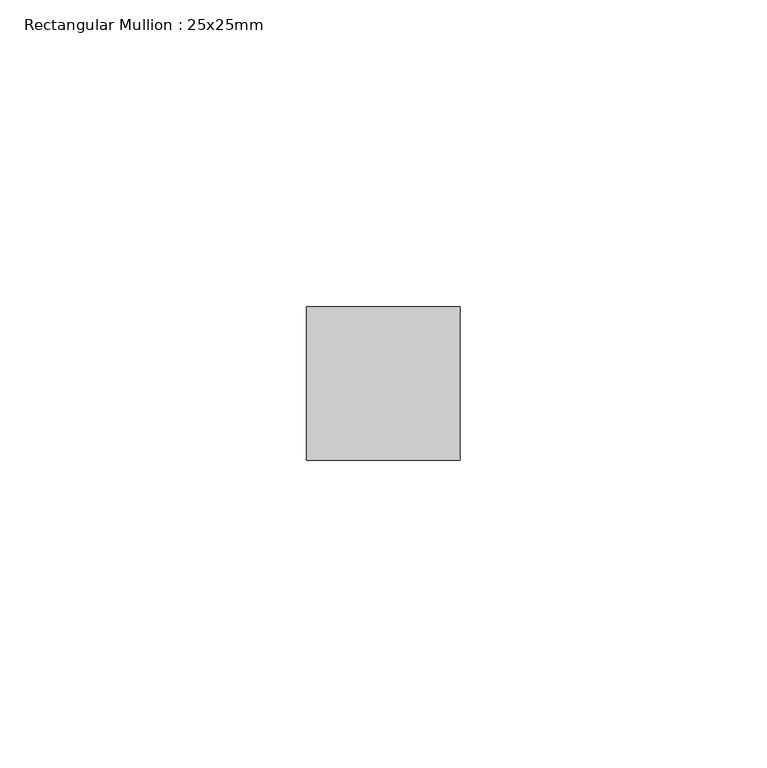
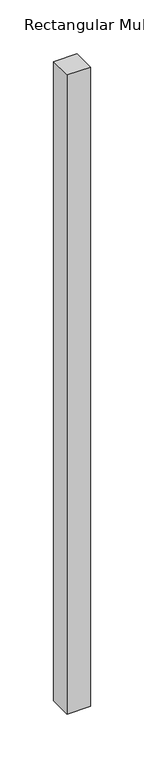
"""IFC4 building model written with IfcOpenShell, lengths in millimetres: member geometry, Rectangular Mullion : 25x25mm."""

from ifc_helpers import new_model, si_unit, frame, origin, place, context, project, spatial, polyline, outline, extrude, source, transform, mapped, element, save


def rectangular_mullion_25x25mm_7f393c03(model_context):
    return source(origin(), model_context, "Body", "SweptSolid", [
        extrude(outline(polyline([(12.5, 0.5), (12.5, -24.5), (-12.5, -24.5), (-12.5, 0.5), (12.5, 0.5)])), frame((0.0, 0.0, -725.0), z_axis=(0.0, 0.0, 1.0), x_axis=(1.0, 0.0, 0.0)), (0.0, 0.0, 1.0), 725.0),
    ])


if __name__ == "__main__":
    model = new_model("IFC4")
    model_context = context("Model", 3, world=origin())
    ifc_project = project(units=[si_unit("LENGTHUNIT", "METRE", prefix="MILLI")], contexts=[model_context])
    site = spatial("IfcSite", under=ifc_project)
    building = spatial("IfcBuilding", under=site)
    placement = place(None, origin())
    rectangular_mullion_25x25mm_shape = rectangular_mullion_25x25mm_7f393c03(model_context)
    element("IfcMember", 1, ObjectType="Rectangular Mullion : 25x25mm", at=placement, inside=building, context=model_context, shape_type="MappedRepresentation", body=[
        mapped(rectangular_mullion_25x25mm_shape, transform((0.0, 0.0, 0.0), x_axis=(1.0, 0.0, 0.0), y_axis=(0.0, 1.0, 0.0), z_axis=(0.0, 0.0, 1.0))),
    ])
    save(model, "model.ifc")
